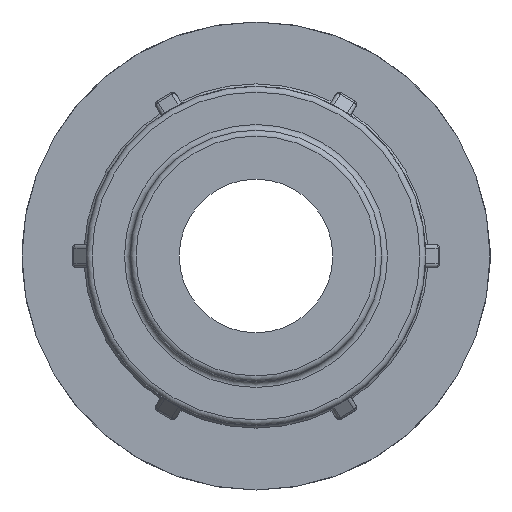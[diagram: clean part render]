
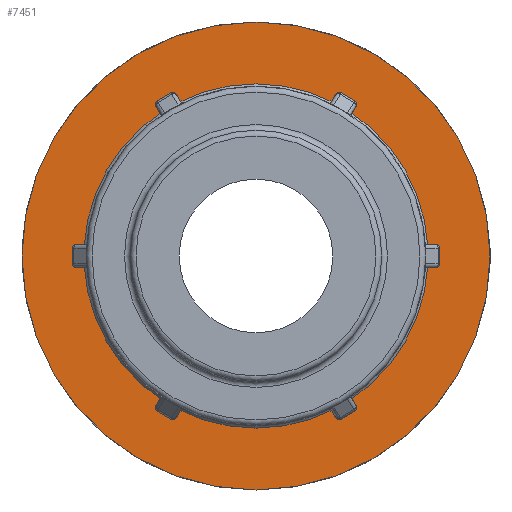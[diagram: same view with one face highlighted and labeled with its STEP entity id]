
A CAD part, left-side view. The second image highlights one B-rep face of the part: STEP entity #7451.
In plain terms, the highlighted planar face has unit normal (-1, 0, 0).
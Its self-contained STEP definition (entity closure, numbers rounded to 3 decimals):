
#35=FACE_BOUND('',#1399,.T.);
#110=ELLIPSE('',#7532,0.453,0.32);
#111=ELLIPSE('',#7553,0.453,0.32);
#115=ELLIPSE('',#7649,0.453,0.32);
#116=ELLIPSE('',#7670,0.453,0.32);
#120=ELLIPSE('',#7766,0.453,0.32);
#121=ELLIPSE('',#7787,0.453,0.32);
#125=ELLIPSE('',#7883,0.453,0.32);
#126=ELLIPSE('',#7904,0.453,0.32);
#130=ELLIPSE('',#8000,0.453,0.32);
#131=ELLIPSE('',#8021,0.453,0.32);
#136=ELLIPSE('',#8284,0.453,0.32);
#137=ELLIPSE('',#8305,0.453,0.32);
#290=PLANE('',#8370);
#922=FACE_OUTER_BOUND('',#1398,.T.);
#1398=EDGE_LOOP('',(#6740));
#1399=EDGE_LOOP('',(#6741,#6742,#6743,#6744,#6745,#6746,#6747,#6748,#6749,
#6750,#6751,#6752,#6753,#6754,#6755,#6756,#6757,#6758,#6759,#6760,#6761,
#6762,#6763,#6764));
#1451=LINE('',#10982,#1901);
#1510=LINE('',#11439,#1960);
#1569=LINE('',#11896,#2019);
#1628=LINE('',#12351,#2078);
#1687=LINE('',#12808,#2137);
#1834=LINE('',#14133,#2284);
#1901=VECTOR('',#8565,1.31);
#1960=VECTOR('',#8858,1.31);
#2019=VECTOR('',#9151,1.31);
#2078=VECTOR('',#9444,1.31);
#2137=VECTOR('',#9737,1.31);
#2284=VECTOR('',#10452,1.31);
#2726=CIRCLE('',#8210,14.343);
#2727=CIRCLE('',#8212,14.343);
#2728=CIRCLE('',#8214,14.343);
#2729=CIRCLE('',#8216,14.343);
#2730=CIRCLE('',#8218,14.343);
#2812=CIRCLE('',#8371,19.5);
#2813=CIRCLE('',#8372,14.343);
#2875=VERTEX_POINT('',#10962);
#2876=VERTEX_POINT('',#10974);
#2878=VERTEX_POINT('',#10980);
#2891=VERTEX_POINT('',#11037);
#2962=VERTEX_POINT('',#11419);
#2963=VERTEX_POINT('',#11431);
#2965=VERTEX_POINT('',#11437);
#2978=VERTEX_POINT('',#11494);
#3049=VERTEX_POINT('',#11876);
#3050=VERTEX_POINT('',#11888);
#3052=VERTEX_POINT('',#11894);
#3065=VERTEX_POINT('',#11951);
#3136=VERTEX_POINT('',#12331);
#3137=VERTEX_POINT('',#12343);
#3139=VERTEX_POINT('',#12349);
#3152=VERTEX_POINT('',#12406);
#3223=VERTEX_POINT('',#12788);
#3224=VERTEX_POINT('',#12800);
#3226=VERTEX_POINT('',#12806);
#3239=VERTEX_POINT('',#12863);
#3394=VERTEX_POINT('',#13877);
#3441=VERTEX_POINT('',#14113);
#3442=VERTEX_POINT('',#14125);
#3444=VERTEX_POINT('',#14131);
#3480=VERTEX_POINT('',#14325);
#3568=EDGE_CURVE('',#2876,#2875,#110,.F.);
#3571=EDGE_CURVE('',#2876,#2878,#1451,.T.);
#3596=EDGE_CURVE('',#2878,#2891,#111,.T.);
#3708=EDGE_CURVE('',#2963,#2962,#115,.F.);
#3711=EDGE_CURVE('',#2963,#2965,#1510,.T.);
#3736=EDGE_CURVE('',#2965,#2978,#116,.T.);
#3848=EDGE_CURVE('',#3050,#3049,#120,.F.);
#3851=EDGE_CURVE('',#3050,#3052,#1569,.T.);
#3876=EDGE_CURVE('',#3052,#3065,#121,.T.);
#3988=EDGE_CURVE('',#3137,#3136,#125,.F.);
#3991=EDGE_CURVE('',#3137,#3139,#1628,.T.);
#4016=EDGE_CURVE('',#3139,#3152,#126,.T.);
#4128=EDGE_CURVE('',#3224,#3223,#130,.F.);
#4131=EDGE_CURVE('',#3224,#3226,#1687,.T.);
#4156=EDGE_CURVE('',#3226,#3239,#131,.T.);
#4426=EDGE_CURVE('',#3223,#3394,#2726,.F.);
#4429=EDGE_CURVE('',#3239,#3136,#2727,.T.);
#4430=EDGE_CURVE('',#3152,#3049,#2728,.T.);
#4431=EDGE_CURVE('',#3065,#2962,#2729,.T.);
#4432=EDGE_CURVE('',#2978,#2875,#2730,.T.);
#4510=EDGE_CURVE('',#3442,#3441,#136,.F.);
#4513=EDGE_CURVE('',#3442,#3444,#1834,.T.);
#4537=EDGE_CURVE('',#3444,#3394,#137,.T.);
#4586=EDGE_CURVE('',#3480,#3480,#2812,.T.);
#4587=EDGE_CURVE('',#2891,#3441,#2813,.T.);
#6740=ORIENTED_EDGE('',*,*,#4586,.F.);
#6741=ORIENTED_EDGE('',*,*,#4587,.T.);
#6742=ORIENTED_EDGE('',*,*,#4510,.F.);
#6743=ORIENTED_EDGE('',*,*,#4513,.T.);
#6744=ORIENTED_EDGE('',*,*,#4537,.T.);
#6745=ORIENTED_EDGE('',*,*,#4426,.F.);
#6746=ORIENTED_EDGE('',*,*,#4128,.F.);
#6747=ORIENTED_EDGE('',*,*,#4131,.T.);
#6748=ORIENTED_EDGE('',*,*,#4156,.T.);
#6749=ORIENTED_EDGE('',*,*,#4429,.T.);
#6750=ORIENTED_EDGE('',*,*,#3988,.F.);
#6751=ORIENTED_EDGE('',*,*,#3991,.T.);
#6752=ORIENTED_EDGE('',*,*,#4016,.T.);
#6753=ORIENTED_EDGE('',*,*,#4430,.T.);
#6754=ORIENTED_EDGE('',*,*,#3848,.F.);
#6755=ORIENTED_EDGE('',*,*,#3851,.T.);
#6756=ORIENTED_EDGE('',*,*,#3876,.T.);
#6757=ORIENTED_EDGE('',*,*,#4431,.T.);
#6758=ORIENTED_EDGE('',*,*,#3708,.F.);
#6759=ORIENTED_EDGE('',*,*,#3711,.T.);
#6760=ORIENTED_EDGE('',*,*,#3736,.T.);
#6761=ORIENTED_EDGE('',*,*,#4432,.T.);
#6762=ORIENTED_EDGE('',*,*,#3568,.F.);
#6763=ORIENTED_EDGE('',*,*,#3571,.T.);
#6764=ORIENTED_EDGE('',*,*,#3596,.T.);
#7451=ADVANCED_FACE('',(#922,#35),#290,.T.);
#7532=AXIS2_PLACEMENT_3D('',#10976,#8559,#8560);
#7553=AXIS2_PLACEMENT_3D('',#11038,#8621,#8622);
#7649=AXIS2_PLACEMENT_3D('',#11433,#8852,#8853);
#7670=AXIS2_PLACEMENT_3D('',#11495,#8914,#8915);
#7766=AXIS2_PLACEMENT_3D('',#11890,#9145,#9146);
#7787=AXIS2_PLACEMENT_3D('',#11952,#9207,#9208);
#7883=AXIS2_PLACEMENT_3D('',#12345,#9438,#9439);
#7904=AXIS2_PLACEMENT_3D('',#12407,#9500,#9501);
#8000=AXIS2_PLACEMENT_3D('',#12802,#9731,#9732);
#8021=AXIS2_PLACEMENT_3D('',#12864,#9793,#9794);
#8210=AXIS2_PLACEMENT_3D('',#13878,#10266,#10267);
#8212=AXIS2_PLACEMENT_3D('',#13894,#10270,#10271);
#8214=AXIS2_PLACEMENT_3D('',#13896,#10274,#10275);
#8216=AXIS2_PLACEMENT_3D('',#13898,#10278,#10279);
#8218=AXIS2_PLACEMENT_3D('',#13900,#10282,#10283);
#8284=AXIS2_PLACEMENT_3D('',#14127,#10446,#10447);
#8305=AXIS2_PLACEMENT_3D('',#14181,#10508,#10509);
#8370=AXIS2_PLACEMENT_3D('',#14324,#10653,#10654);
#8371=AXIS2_PLACEMENT_3D('',#14326,#10655,#10656);
#8372=AXIS2_PLACEMENT_3D('',#14327,#10657,#10658);
#8559=DIRECTION('center_axis',(1.,0.,0.));
#8560=DIRECTION('ref_axis',(0.,0.5,-0.866));
#8565=DIRECTION('',(0.,0.866,0.5));
#8621=DIRECTION('center_axis',(1.,0.,0.));
#8622=DIRECTION('ref_axis',(0.,0.5,-0.866));
#8852=DIRECTION('center_axis',(1.,0.,0.));
#8853=DIRECTION('ref_axis',(0.,-0.5,-0.866));
#8858=DIRECTION('',(0.,0.866,-0.5));
#8914=DIRECTION('center_axis',(1.,0.,0.));
#8915=DIRECTION('ref_axis',(0.,-0.5,-0.866));
#9145=DIRECTION('center_axis',(1.,0.,0.));
#9146=DIRECTION('ref_axis',(0.,-1.,0.));
#9151=DIRECTION('',(0.,0.,-1.));
#9207=DIRECTION('center_axis',(1.,0.,0.));
#9208=DIRECTION('ref_axis',(0.,-1.,0.));
#9438=DIRECTION('center_axis',(1.,0.,0.));
#9439=DIRECTION('ref_axis',(0.,-0.5,0.866));
#9444=DIRECTION('',(0.,-0.866,-0.5));
#9500=DIRECTION('center_axis',(1.,0.,0.));
#9501=DIRECTION('ref_axis',(0.,-0.5,0.866));
#9731=DIRECTION('center_axis',(1.,0.,0.));
#9732=DIRECTION('ref_axis',(0.,0.5,0.866));
#9737=DIRECTION('',(0.,-0.866,0.5));
#9793=DIRECTION('center_axis',(1.,0.,0.));
#9794=DIRECTION('ref_axis',(0.,0.5,0.866));
#10266=DIRECTION('center_axis',(1.,0.,0.));
#10267=DIRECTION('ref_axis',(0.,1.,0.));
#10270=DIRECTION('center_axis',(1.,0.,0.));
#10271=DIRECTION('ref_axis',(0.,1.,0.));
#10274=DIRECTION('center_axis',(1.,0.,0.));
#10275=DIRECTION('ref_axis',(0.,1.,0.));
#10278=DIRECTION('center_axis',(1.,0.,0.));
#10279=DIRECTION('ref_axis',(0.,1.,0.));
#10282=DIRECTION('center_axis',(1.,0.,0.));
#10283=DIRECTION('ref_axis',(0.,1.,0.));
#10446=DIRECTION('center_axis',(1.,0.,0.));
#10447=DIRECTION('ref_axis',(0.,1.,0.));
#10452=DIRECTION('',(0.,0.,1.));
#10508=DIRECTION('center_axis',(1.,0.,0.));
#10509=DIRECTION('ref_axis',(0.,1.,0.));
#10653=DIRECTION('center_axis',(-1.,0.,0.));
#10654=DIRECTION('ref_axis',(0.,0.,1.));
#10655=DIRECTION('center_axis',(1.,0.,0.));
#10656=DIRECTION('ref_axis',(0.,0.,-1.));
#10657=DIRECTION('center_axis',(1.,0.,0.));
#10658=DIRECTION('ref_axis',(0.,1.,0.));
#10962=CARTESIAN_POINT('',(21.66,6.514,-12.778));
#10974=CARTESIAN_POINT('',(21.66,6.604,-12.749));
#10976=CARTESIAN_POINT('Origin',(21.66,6.378,-12.357));
#10980=CARTESIAN_POINT('',(21.66,7.739,-12.094));
#10982=CARTESIAN_POINT('',(21.66,14.484,-8.2));
#11037=CARTESIAN_POINT('',(21.66,7.809,-12.031));
#11038=CARTESIAN_POINT('Origin',(21.66,7.512,-11.702));
#11419=CARTESIAN_POINT('',(21.66,-7.809,-12.031));
#11431=CARTESIAN_POINT('',(21.66,-7.739,-12.094));
#11433=CARTESIAN_POINT('Origin',(21.66,-7.512,-11.702));
#11437=CARTESIAN_POINT('',(21.66,-6.604,-12.749));
#11439=CARTESIAN_POINT('',(21.66,0.141,-16.643));
#11494=CARTESIAN_POINT('',(21.66,-6.514,-12.778));
#11495=CARTESIAN_POINT('Origin',(21.66,-6.378,-12.357));
#11876=CARTESIAN_POINT('',(21.66,-14.323,0.748));
#11888=CARTESIAN_POINT('',(21.66,-14.343,0.655));
#11890=CARTESIAN_POINT('Origin',(21.66,-13.89,0.655));
#11894=CARTESIAN_POINT('',(21.66,-14.343,-0.655));
#11896=CARTESIAN_POINT('',(21.66,-14.343,0.));
#11951=CARTESIAN_POINT('',(21.66,-14.323,-0.748));
#11952=CARTESIAN_POINT('Origin',(21.66,-13.89,-0.655));
#12331=CARTESIAN_POINT('',(21.66,-6.514,12.778));
#12343=CARTESIAN_POINT('',(21.66,-6.604,12.749));
#12345=CARTESIAN_POINT('Origin',(21.66,-6.378,12.357));
#12349=CARTESIAN_POINT('',(21.66,-7.739,12.094));
#12351=CARTESIAN_POINT('',(21.66,0.141,16.643));
#12406=CARTESIAN_POINT('',(21.66,-7.809,12.031));
#12407=CARTESIAN_POINT('Origin',(21.66,-7.512,11.702));
#12788=CARTESIAN_POINT('',(21.66,7.809,12.031));
#12800=CARTESIAN_POINT('',(21.66,7.739,12.094));
#12802=CARTESIAN_POINT('Origin',(21.66,7.512,11.702));
#12806=CARTESIAN_POINT('',(21.66,6.604,12.749));
#12808=CARTESIAN_POINT('',(21.66,14.484,8.2));
#12863=CARTESIAN_POINT('',(21.66,6.514,12.778));
#12864=CARTESIAN_POINT('Origin',(21.66,6.378,12.357));
#13877=CARTESIAN_POINT('',(21.66,14.323,0.748));
#13878=CARTESIAN_POINT('Origin',(21.66,0.,0.));
#13894=CARTESIAN_POINT('Origin',(21.66,0.,0.));
#13896=CARTESIAN_POINT('Origin',(21.66,0.,0.));
#13898=CARTESIAN_POINT('Origin',(21.66,0.,0.));
#13900=CARTESIAN_POINT('Origin',(21.66,0.,0.));
#14113=CARTESIAN_POINT('',(21.66,14.323,-0.748));
#14125=CARTESIAN_POINT('',(21.66,14.343,-0.655));
#14127=CARTESIAN_POINT('Origin',(21.66,13.89,-0.655));
#14131=CARTESIAN_POINT('',(21.66,14.343,0.655));
#14133=CARTESIAN_POINT('',(21.66,14.343,0.));
#14181=CARTESIAN_POINT('Origin',(21.66,13.89,0.655));
#14324=CARTESIAN_POINT('Origin',(21.66,19.5,0.));
#14325=CARTESIAN_POINT('',(21.66,19.5,0.));
#14326=CARTESIAN_POINT('Origin',(21.66,0.,0.));
#14327=CARTESIAN_POINT('Origin',(21.66,0.,0.));
